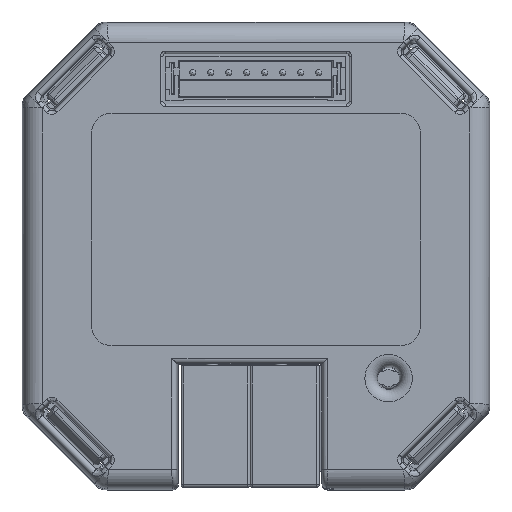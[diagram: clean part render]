
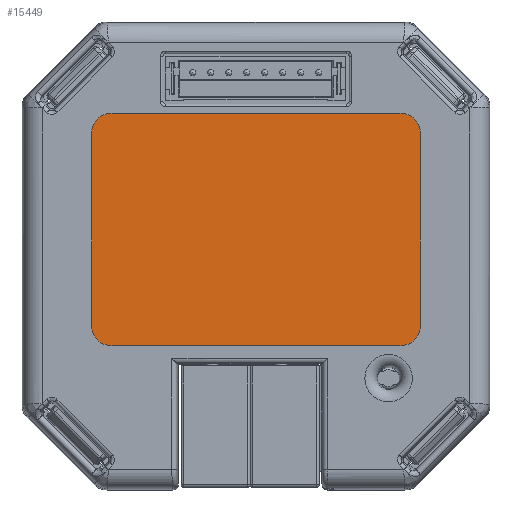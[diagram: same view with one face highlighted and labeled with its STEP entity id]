
A CAD part, top view. The second image highlights one B-rep face of the part: STEP entity #15449.
In plain terms, the highlighted planar face has unit normal (0, 0, 1).
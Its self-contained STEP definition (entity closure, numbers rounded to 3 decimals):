
#1560=CIRCLE('',#16679,1.7);
#1562=CIRCLE('',#16683,1.7);
#1564=CIRCLE('',#16687,1.7);
#1566=CIRCLE('',#16691,1.7);
#2468=FACE_OUTER_BOUND('',#3329,.T.);
#3329=EDGE_LOOP('',(#13438,#13439,#13440,#13441,#13442,#13443,#13444,#13445));
#4780=LINE('',#26127,#6279);
#4784=LINE('',#26139,#6283);
#4788=LINE('',#26151,#6287);
#4791=LINE('',#26160,#6290);
#6279=VECTOR('',#20313,10.);
#6283=VECTOR('',#20325,10.);
#6287=VECTOR('',#20337,10.);
#6290=VECTOR('',#20348,10.);
#7635=VERTEX_POINT('',#26117);
#7636=VERTEX_POINT('',#26119);
#7638=VERTEX_POINT('',#26125);
#7640=VERTEX_POINT('',#26131);
#7642=VERTEX_POINT('',#26137);
#7644=VERTEX_POINT('',#26143);
#7646=VERTEX_POINT('',#26149);
#7648=VERTEX_POINT('',#26155);
#9608=EDGE_CURVE('',#7635,#7636,#1560,.T.);
#9612=EDGE_CURVE('',#7638,#7635,#4780,.T.);
#9615=EDGE_CURVE('',#7640,#7638,#1562,.T.);
#9618=EDGE_CURVE('',#7642,#7640,#4784,.T.);
#9621=EDGE_CURVE('',#7644,#7642,#1564,.T.);
#9624=EDGE_CURVE('',#7646,#7644,#4788,.T.);
#9627=EDGE_CURVE('',#7648,#7646,#1566,.T.);
#9629=EDGE_CURVE('',#7636,#7648,#4791,.T.);
#13438=ORIENTED_EDGE('',*,*,#9629,.F.);
#13439=ORIENTED_EDGE('',*,*,#9608,.F.);
#13440=ORIENTED_EDGE('',*,*,#9612,.F.);
#13441=ORIENTED_EDGE('',*,*,#9615,.F.);
#13442=ORIENTED_EDGE('',*,*,#9618,.F.);
#13443=ORIENTED_EDGE('',*,*,#9621,.F.);
#13444=ORIENTED_EDGE('',*,*,#9624,.F.);
#13445=ORIENTED_EDGE('',*,*,#9627,.F.);
#14725=PLANE('',#16693);
#15449=ADVANCED_FACE('',(#2468),#14725,.T.);
#16679=AXIS2_PLACEMENT_3D('',#26120,#20306,#20307);
#16683=AXIS2_PLACEMENT_3D('',#26133,#20319,#20320);
#16687=AXIS2_PLACEMENT_3D('',#26145,#20331,#20332);
#16691=AXIS2_PLACEMENT_3D('',#26157,#20343,#20344);
#16693=AXIS2_PLACEMENT_3D('',#26161,#20349,#20350);
#20306=DIRECTION('center_axis',(0.,0.,-1.));
#20307=DIRECTION('ref_axis',(0.,1.,0.));
#20313=DIRECTION('',(0.,-1.,0.));
#20319=DIRECTION('center_axis',(0.,0.,-1.));
#20320=DIRECTION('ref_axis',(-1.,0.,0.));
#20325=DIRECTION('',(1.,0.,0.));
#20331=DIRECTION('center_axis',(0.,0.,-1.));
#20332=DIRECTION('ref_axis',(0.,-1.,0.));
#20337=DIRECTION('',(0.,1.,0.));
#20343=DIRECTION('center_axis',(0.,0.,-1.));
#20344=DIRECTION('ref_axis',(1.,0.,0.));
#20348=DIRECTION('',(-1.,0.,0.));
#20349=DIRECTION('center_axis',(0.,0.,1.));
#20350=DIRECTION('ref_axis',(1.,0.,0.));
#26117=CARTESIAN_POINT('',(13.7,-5.8,6.6));
#26119=CARTESIAN_POINT('',(12.,-7.5,6.6));
#26120=CARTESIAN_POINT('Origin',(12.,-5.8,6.6));
#26125=CARTESIAN_POINT('',(13.7,10.2,6.6));
#26127=CARTESIAN_POINT('',(13.7,10.2,6.6));
#26131=CARTESIAN_POINT('',(12.,11.9,6.6));
#26133=CARTESIAN_POINT('Origin',(12.,10.2,6.6));
#26137=CARTESIAN_POINT('',(-12.,11.9,6.6));
#26139=CARTESIAN_POINT('',(-12.,11.9,6.6));
#26143=CARTESIAN_POINT('',(-13.7,10.2,6.6));
#26145=CARTESIAN_POINT('Origin',(-12.,10.2,6.6));
#26149=CARTESIAN_POINT('',(-13.7,-5.8,6.6));
#26151=CARTESIAN_POINT('',(-13.7,-5.8,6.6));
#26155=CARTESIAN_POINT('',(-12.,-7.5,6.6));
#26157=CARTESIAN_POINT('Origin',(-12.,-5.8,6.6));
#26160=CARTESIAN_POINT('',(12.,-7.5,6.6));
#26161=CARTESIAN_POINT('Origin',(0.,2.2,6.6));
